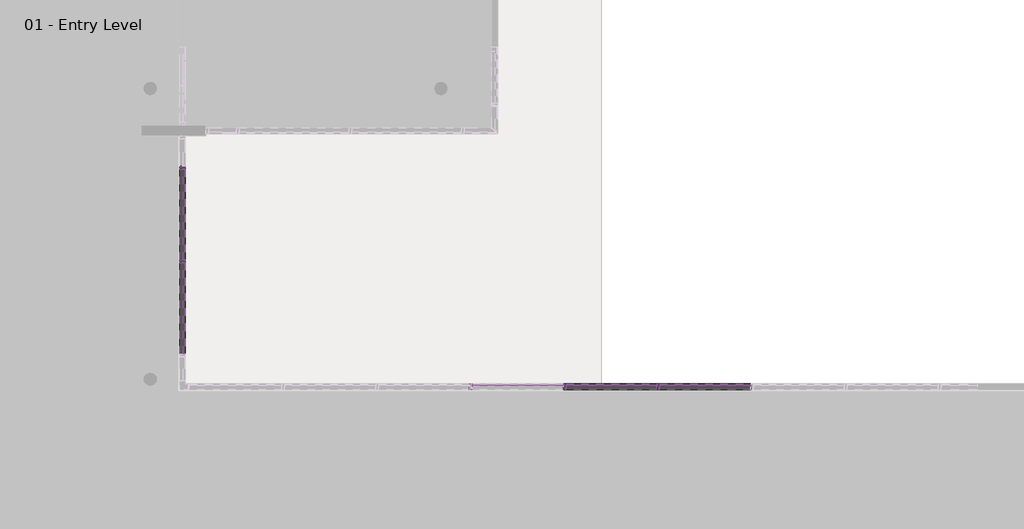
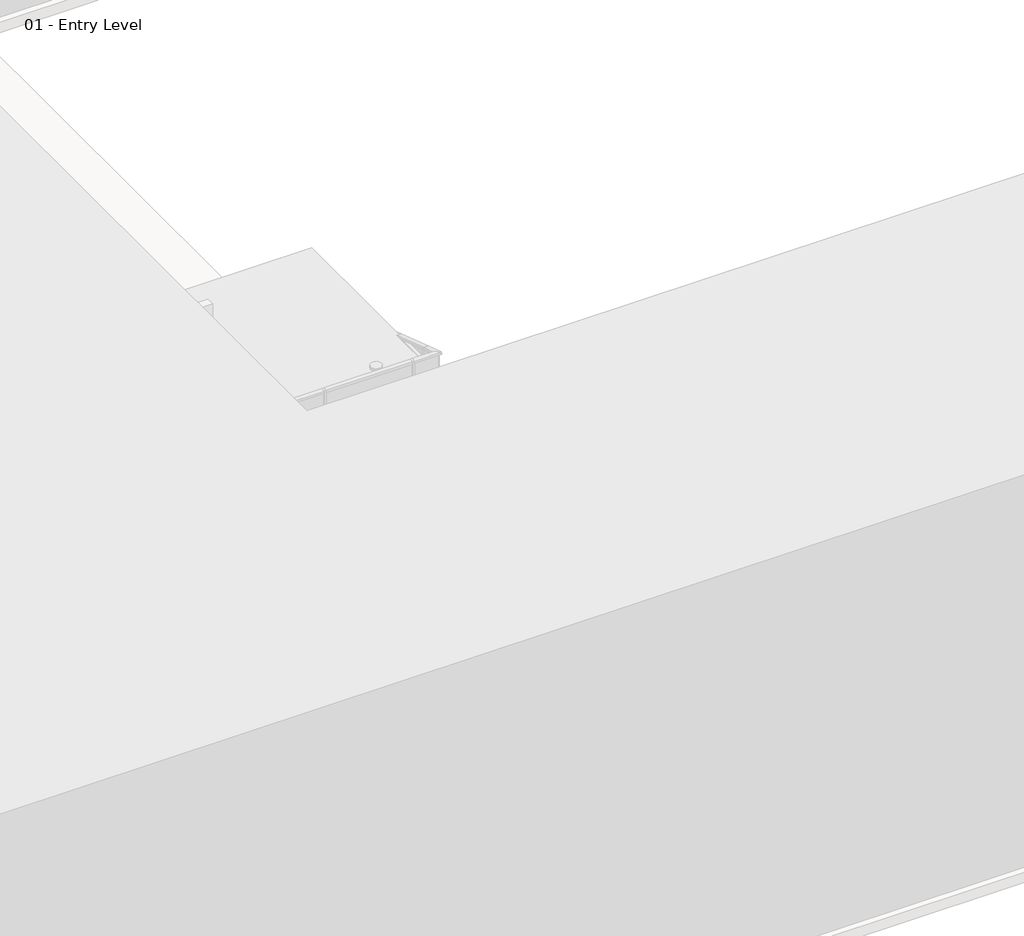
# One storey, part 10 of 34: 86 members, 45 plates.
"""IFC4 building model written with IfcOpenShell, lengths in millimetres."""

from ifc_helpers import new_model, si_unit, origin, place, context, project, spatial, transform, mapped, element, save
from components import member_2b49869a, member_391b434c, member_9e90ae50, member_e5d39754, system_panel_glazed_1b9d6098, system_panel_glazed_70da479d

model = new_model("IFC4")

# Units and contexts
model_context = context("Model", 3, world=origin())
ifc_project = project(units=[si_unit("LENGTHUNIT", "METRE", prefix="MILLI")], contexts=[model_context])

# Site, building, storey
site = spatial("IfcSite", under=ifc_project)
building = spatial("IfcBuilding", under=site)
storey = spatial("IfcBuildingStorey", under=building, Name="01 - Entry Level", Elevation=0.0)

# Members
placement = place(None, origin())
member_shape = member_2b49869a(model_context)
element("IfcMember", 1, ObjectType="Rectangular Mullion : 2.5\" x 5\" rectangular", at=placement, inside=storey, context=model_context, shape_type="MappedRepresentation", body=[
    mapped(member_shape, transform((27496.4207476, 11001.3, 9753.6), x_axis=(-1.0, 0.0, 0.0), y_axis=(0.0, 1.0, 0.0), z_axis=(0.0, 0.0, -1.0))),
])
element("IfcMember", 2, ObjectType="Rectangular Mullion : 2.5\" x 5\" rectangular", at=placement, inside=storey, context=model_context, shape_type="MappedRepresentation", body=[
    mapped(member_shape, transform((25464.4207476, 11001.3, 9753.6), x_axis=(-1.0, 0.0, 0.0), y_axis=(0.0, 1.0, 0.0), z_axis=(0.0, 0.0, -1.0))),
])
element("IfcMember", 3, ObjectType="Rectangular Mullion : 2.5\" x 5\" rectangular", at=placement, inside=storey, context=model_context, shape_type="MappedRepresentation", body=[
    mapped(member_shape, transform((23432.4207476, 11001.3, 9753.6), x_axis=(-1.0, 0.0, 0.0), y_axis=(0.0, 1.0, 0.0), z_axis=(0.0, 0.0, -1.0))),
])
element("IfcMember", 4, ObjectType="Rectangular Mullion : 2.5\" x 5\" rectangular", at=placement, inside=storey, context=model_context, shape_type="MappedRepresentation", body=[
    mapped(member_shape, transform((17184.0207476, 13719.1, 9753.6), x_axis=(0.0, 1.0, 0.0), y_axis=(1.0, 0.0, 0.0), z_axis=(0.0, 0.0, -1.0))),
])
element("IfcMember", 5, ObjectType="Rectangular Mullion : 2.5\" x 5\" rectangular", at=placement, inside=storey, context=model_context, shape_type="MappedRepresentation", body=[
    mapped(member_shape, transform((17184.0207476, 15751.1, 9753.6), x_axis=(0.0, 1.0, 0.0), y_axis=(1.0, 0.0, 0.0), z_axis=(0.0, 0.0, -1.0))),
])
member_2_shape = member_391b434c(model_context)
element("IfcMember", 6, ObjectType="Rectangular Mullion : 2.5\" x 5\" rectangular", at=placement, inside=storey, context=model_context, shape_type="MappedRepresentation", body=[
    mapped(member_2_shape, transform((29560.1707476, 11001.3, 10972.8), x_axis=(0.0, 0.0, 1.0), y_axis=(0.0, 1.0, 0.0), z_axis=(-1.0, 0.0, 0.0))),
])
element("IfcMember", 7, ObjectType="Rectangular Mullion : 2.5\" x 5\" rectangular", at=placement, inside=storey, context=model_context, shape_type="MappedRepresentation", body=[
    mapped(member_2_shape, transform((27528.1707476, 11001.3, 10972.8), x_axis=(0.0, 0.0, 1.0), y_axis=(0.0, 1.0, 0.0), z_axis=(-1.0, 0.0, 0.0))),
])
element("IfcMember", 8, ObjectType="Rectangular Mullion : 2.5\" x 5\" rectangular", at=placement, inside=storey, context=model_context, shape_type="MappedRepresentation", body=[
    mapped(member_2_shape, transform((25496.1707476, 11001.3, 10972.8), x_axis=(0.0, 0.0, 1.0), y_axis=(0.0, 1.0, 0.0), z_axis=(-1.0, 0.0, 0.0))),
])
element("IfcMember", 9, ObjectType="Rectangular Mullion : 2.5\" x 5\" rectangular", at=placement, inside=storey, context=model_context, shape_type="MappedRepresentation", body=[
    mapped(member_2_shape, transform((17184.0207476, 13687.35, 10972.8), x_axis=(0.0, 0.0, 1.0), y_axis=(1.0, 0.0, 0.0), z_axis=(0.0, 1.0, 0.0))),
])
element("IfcMember", 10, ObjectType="Rectangular Mullion : 2.5\" x 5\" rectangular", at=placement, inside=storey, context=model_context, shape_type="MappedRepresentation", body=[
    mapped(member_2_shape, transform((17184.0207476, 15719.35, 10972.8), x_axis=(0.0, 0.0, 1.0), y_axis=(1.0, 0.0, 0.0), z_axis=(0.0, 1.0, 0.0))),
])
element("IfcMember", 11, ObjectType="Rectangular Mullion : 2.5\" x 5\" rectangular", at=placement, inside=storey, context=model_context, shape_type="MappedRepresentation", body=[
    mapped(member_2_shape, transform((29496.6707476, 11001.3, 0.0), x_axis=(0.0, 0.0, -1.0), y_axis=(0.0, 1.0, 0.0), z_axis=(1.0, 0.0, 0.0))),
])
element("IfcMember", 12, ObjectType="Rectangular Mullion : 2.5\" x 5\" rectangular", at=placement, inside=storey, context=model_context, shape_type="MappedRepresentation", body=[
    mapped(member_2_shape, transform((27464.6707476, 11001.3, 0.0), x_axis=(0.0, 0.0, -1.0), y_axis=(0.0, 1.0, 0.0), z_axis=(1.0, 0.0, 0.0))),
])
element("IfcMember", 13, ObjectType="Rectangular Mullion : 2.5\" x 5\" rectangular", at=placement, inside=storey, context=model_context, shape_type="MappedRepresentation", body=[
    mapped(member_2_shape, transform((25432.6707476, 11001.3, 0.0), x_axis=(0.0, 0.0, -1.0), y_axis=(0.0, 1.0, 0.0), z_axis=(1.0, 0.0, 0.0))),
])
element("IfcMember", 14, ObjectType="Rectangular Mullion : 2.5\" x 5\" rectangular", at=placement, inside=storey, context=model_context, shape_type="MappedRepresentation", body=[
    mapped(member_2_shape, transform((17184.0207476, 13750.85, 0.0), x_axis=(0.0, 0.0, -1.0), y_axis=(1.0, 0.0, 0.0), z_axis=(0.0, -1.0, 0.0))),
])
member_3_shape = member_9e90ae50(model_context)
element("IfcMember", 15, ObjectType="Rectangular Mullion : 2.5\" x 5\" rectangular", at=placement, inside=storey, context=model_context, shape_type="MappedRepresentation", body=[
    mapped(member_3_shape, transform((27528.1707476, 11001.3, 1219.2), x_axis=(0.0, 0.0, 1.0), y_axis=(0.0, 1.0, 0.0), z_axis=(-1.0, 0.0, 0.0))),
])
element("IfcMember", 16, ObjectType="Rectangular Mullion : 2.5\" x 5\" rectangular", at=placement, inside=storey, context=model_context, shape_type="MappedRepresentation", body=[
    mapped(member_3_shape, transform((25496.1707476, 11001.3, 1219.2), x_axis=(0.0, 0.0, 1.0), y_axis=(0.0, 1.0, 0.0), z_axis=(-1.0, 0.0, 0.0))),
])
element("IfcMember", 17, ObjectType="Rectangular Mullion : 2.5\" x 5\" rectangular", at=placement, inside=storey, context=model_context, shape_type="MappedRepresentation", body=[
    mapped(member_3_shape, transform((27528.1707476, 11001.3, 2438.4), x_axis=(0.0, 0.0, 1.0), y_axis=(0.0, 1.0, 0.0), z_axis=(-1.0, 0.0, 0.0))),
])
element("IfcMember", 18, ObjectType="Rectangular Mullion : 2.5\" x 5\" rectangular", at=placement, inside=storey, context=model_context, shape_type="MappedRepresentation", body=[
    mapped(member_3_shape, transform((25496.1707476, 11001.3, 2438.4), x_axis=(0.0, 0.0, 1.0), y_axis=(0.0, 1.0, 0.0), z_axis=(-1.0, 0.0, 0.0))),
])
element("IfcMember", 19, ObjectType="Rectangular Mullion : 2.5\" x 5\" rectangular", at=placement, inside=storey, context=model_context, shape_type="MappedRepresentation", body=[
    mapped(member_3_shape, transform((27528.1707476, 11001.3, 3657.6), x_axis=(0.0, 0.0, 1.0), y_axis=(0.0, 1.0, 0.0), z_axis=(-1.0, 0.0, 0.0))),
])
element("IfcMember", 20, ObjectType="Rectangular Mullion : 2.5\" x 5\" rectangular", at=placement, inside=storey, context=model_context, shape_type="MappedRepresentation", body=[
    mapped(member_3_shape, transform((25496.1707476, 11001.3, 3657.6), x_axis=(0.0, 0.0, 1.0), y_axis=(0.0, 1.0, 0.0), z_axis=(-1.0, 0.0, 0.0))),
])
element("IfcMember", 21, ObjectType="Rectangular Mullion : 2.5\" x 5\" rectangular", at=placement, inside=storey, context=model_context, shape_type="MappedRepresentation", body=[
    mapped(member_3_shape, transform((27528.1707476, 11001.3, 4876.8), x_axis=(0.0, 0.0, 1.0), y_axis=(0.0, 1.0, 0.0), z_axis=(-1.0, 0.0, 0.0))),
])
element("IfcMember", 22, ObjectType="Rectangular Mullion : 2.5\" x 5\" rectangular", at=placement, inside=storey, context=model_context, shape_type="MappedRepresentation", body=[
    mapped(member_3_shape, transform((25496.1707476, 11001.3, 4876.8), x_axis=(0.0, 0.0, 1.0), y_axis=(0.0, 1.0, 0.0), z_axis=(-1.0, 0.0, 0.0))),
])
element("IfcMember", 23, ObjectType="Rectangular Mullion : 2.5\" x 5\" rectangular", at=placement, inside=storey, context=model_context, shape_type="MappedRepresentation", body=[
    mapped(member_3_shape, transform((27528.1707476, 11001.3, 6096.0), x_axis=(0.0, 0.0, 1.0), y_axis=(0.0, 1.0, 0.0), z_axis=(-1.0, 0.0, 0.0))),
])
element("IfcMember", 24, ObjectType="Rectangular Mullion : 2.5\" x 5\" rectangular", at=placement, inside=storey, context=model_context, shape_type="MappedRepresentation", body=[
    mapped(member_3_shape, transform((25496.1707476, 11001.3, 6096.0), x_axis=(0.0, 0.0, 1.0), y_axis=(0.0, 1.0, 0.0), z_axis=(-1.0, 0.0, 0.0))),
])
element("IfcMember", 25, ObjectType="Rectangular Mullion : 2.5\" x 5\" rectangular", at=placement, inside=storey, context=model_context, shape_type="MappedRepresentation", body=[
    mapped(member_3_shape, transform((27528.1707476, 11001.3, 7315.2), x_axis=(0.0, 0.0, 1.0), y_axis=(0.0, 1.0, 0.0), z_axis=(-1.0, 0.0, 0.0))),
])
element("IfcMember", 26, ObjectType="Rectangular Mullion : 2.5\" x 5\" rectangular", at=placement, inside=storey, context=model_context, shape_type="MappedRepresentation", body=[
    mapped(member_3_shape, transform((25496.1707476, 11001.3, 7315.2), x_axis=(0.0, 0.0, 1.0), y_axis=(0.0, 1.0, 0.0), z_axis=(-1.0, 0.0, 0.0))),
])
element("IfcMember", 27, ObjectType="Rectangular Mullion : 2.5\" x 5\" rectangular", at=placement, inside=storey, context=model_context, shape_type="MappedRepresentation", body=[
    mapped(member_3_shape, transform((27528.1707476, 11001.3, 8534.4), x_axis=(0.0, 0.0, 1.0), y_axis=(0.0, 1.0, 0.0), z_axis=(-1.0, 0.0, 0.0))),
])
element("IfcMember", 28, ObjectType="Rectangular Mullion : 2.5\" x 5\" rectangular", at=placement, inside=storey, context=model_context, shape_type="MappedRepresentation", body=[
    mapped(member_3_shape, transform((25496.1707476, 11001.3, 8534.4), x_axis=(0.0, 0.0, 1.0), y_axis=(0.0, 1.0, 0.0), z_axis=(-1.0, 0.0, 0.0))),
])
element("IfcMember", 29, ObjectType="Rectangular Mullion : 2.5\" x 5\" rectangular", at=placement, inside=storey, context=model_context, shape_type="MappedRepresentation", body=[
    mapped(member_3_shape, transform((27528.1707476, 11001.3, 9753.6), x_axis=(0.0, 0.0, 1.0), y_axis=(0.0, 1.0, 0.0), z_axis=(-1.0, 0.0, 0.0))),
])
element("IfcMember", 30, ObjectType="Rectangular Mullion : 2.5\" x 5\" rectangular", at=placement, inside=storey, context=model_context, shape_type="MappedRepresentation", body=[
    mapped(member_3_shape, transform((25496.1707476, 11001.3, 9753.6), x_axis=(0.0, 0.0, 1.0), y_axis=(0.0, 1.0, 0.0), z_axis=(-1.0, 0.0, 0.0))),
])
element("IfcMember", 31, ObjectType="Rectangular Mullion : 2.5\" x 5\" rectangular", at=placement, inside=storey, context=model_context, shape_type="MappedRepresentation", body=[
    mapped(member_3_shape, transform((17184.0207476, 13687.35, 1219.2), x_axis=(0.0, 0.0, 1.0), y_axis=(1.0, 0.0, 0.0), z_axis=(0.0, 1.0, 0.0))),
])
element("IfcMember", 32, ObjectType="Rectangular Mullion : 2.5\" x 5\" rectangular", at=placement, inside=storey, context=model_context, shape_type="MappedRepresentation", body=[
    mapped(member_3_shape, transform((17184.0207476, 15719.35, 1219.2), x_axis=(0.0, 0.0, 1.0), y_axis=(1.0, 0.0, 0.0), z_axis=(0.0, 1.0, 0.0))),
])
element("IfcMember", 33, ObjectType="Rectangular Mullion : 2.5\" x 5\" rectangular", at=placement, inside=storey, context=model_context, shape_type="MappedRepresentation", body=[
    mapped(member_3_shape, transform((17184.0207476, 13687.35, 2438.4), x_axis=(0.0, 0.0, 1.0), y_axis=(1.0, 0.0, 0.0), z_axis=(0.0, 1.0, 0.0))),
])
element("IfcMember", 34, ObjectType="Rectangular Mullion : 2.5\" x 5\" rectangular", at=placement, inside=storey, context=model_context, shape_type="MappedRepresentation", body=[
    mapped(member_3_shape, transform((17184.0207476, 15719.35, 2438.4), x_axis=(0.0, 0.0, 1.0), y_axis=(1.0, 0.0, 0.0), z_axis=(0.0, 1.0, 0.0))),
])
element("IfcMember", 35, ObjectType="Rectangular Mullion : 2.5\" x 5\" rectangular", at=placement, inside=storey, context=model_context, shape_type="MappedRepresentation", body=[
    mapped(member_3_shape, transform((17184.0207476, 13687.35, 3657.6), x_axis=(0.0, 0.0, 1.0), y_axis=(1.0, 0.0, 0.0), z_axis=(0.0, 1.0, 0.0))),
])
element("IfcMember", 36, ObjectType="Rectangular Mullion : 2.5\" x 5\" rectangular", at=placement, inside=storey, context=model_context, shape_type="MappedRepresentation", body=[
    mapped(member_3_shape, transform((17184.0207476, 15719.35, 3657.6), x_axis=(0.0, 0.0, 1.0), y_axis=(1.0, 0.0, 0.0), z_axis=(0.0, 1.0, 0.0))),
])
element("IfcMember", 37, ObjectType="Rectangular Mullion : 2.5\" x 5\" rectangular", at=placement, inside=storey, context=model_context, shape_type="MappedRepresentation", body=[
    mapped(member_3_shape, transform((17184.0207476, 13687.35, 4876.8), x_axis=(0.0, 0.0, 1.0), y_axis=(1.0, 0.0, 0.0), z_axis=(0.0, 1.0, 0.0))),
])
element("IfcMember", 38, ObjectType="Rectangular Mullion : 2.5\" x 5\" rectangular", at=placement, inside=storey, context=model_context, shape_type="MappedRepresentation", body=[
    mapped(member_3_shape, transform((17184.0207476, 15719.35, 4876.8), x_axis=(0.0, 0.0, 1.0), y_axis=(1.0, 0.0, 0.0), z_axis=(0.0, 1.0, 0.0))),
])
element("IfcMember", 39, ObjectType="Rectangular Mullion : 2.5\" x 5\" rectangular", at=placement, inside=storey, context=model_context, shape_type="MappedRepresentation", body=[
    mapped(member_3_shape, transform((17184.0207476, 13687.35, 6096.0), x_axis=(0.0, 0.0, 1.0), y_axis=(1.0, 0.0, 0.0), z_axis=(0.0, 1.0, 0.0))),
])
element("IfcMember", 40, ObjectType="Rectangular Mullion : 2.5\" x 5\" rectangular", at=placement, inside=storey, context=model_context, shape_type="MappedRepresentation", body=[
    mapped(member_3_shape, transform((17184.0207476, 15719.35, 6096.0), x_axis=(0.0, 0.0, 1.0), y_axis=(1.0, 0.0, 0.0), z_axis=(0.0, 1.0, 0.0))),
])
element("IfcMember", 41, ObjectType="Rectangular Mullion : 2.5\" x 5\" rectangular", at=placement, inside=storey, context=model_context, shape_type="MappedRepresentation", body=[
    mapped(member_3_shape, transform((17184.0207476, 13687.35, 7315.2), x_axis=(0.0, 0.0, 1.0), y_axis=(1.0, 0.0, 0.0), z_axis=(0.0, 1.0, 0.0))),
])
element("IfcMember", 42, ObjectType="Rectangular Mullion : 2.5\" x 5\" rectangular", at=placement, inside=storey, context=model_context, shape_type="MappedRepresentation", body=[
    mapped(member_3_shape, transform((17184.0207476, 15719.35, 7315.2), x_axis=(0.0, 0.0, 1.0), y_axis=(1.0, 0.0, 0.0), z_axis=(0.0, 1.0, 0.0))),
])
element("IfcMember", 43, ObjectType="Rectangular Mullion : 2.5\" x 5\" rectangular", at=placement, inside=storey, context=model_context, shape_type="MappedRepresentation", body=[
    mapped(member_3_shape, transform((17184.0207476, 13687.35, 8534.4), x_axis=(0.0, 0.0, 1.0), y_axis=(1.0, 0.0, 0.0), z_axis=(0.0, 1.0, 0.0))),
])
element("IfcMember", 44, ObjectType="Rectangular Mullion : 2.5\" x 5\" rectangular", at=placement, inside=storey, context=model_context, shape_type="MappedRepresentation", body=[
    mapped(member_3_shape, transform((17184.0207476, 15719.35, 8534.4), x_axis=(0.0, 0.0, 1.0), y_axis=(1.0, 0.0, 0.0), z_axis=(0.0, 1.0, 0.0))),
])
element("IfcMember", 45, ObjectType="Rectangular Mullion : 2.5\" x 5\" rectangular", at=placement, inside=storey, context=model_context, shape_type="MappedRepresentation", body=[
    mapped(member_3_shape, transform((17184.0207476, 13687.35, 9753.6), x_axis=(0.0, 0.0, 1.0), y_axis=(1.0, 0.0, 0.0), z_axis=(0.0, 1.0, 0.0))),
])
element("IfcMember", 46, ObjectType="Rectangular Mullion : 2.5\" x 5\" rectangular", at=placement, inside=storey, context=model_context, shape_type="MappedRepresentation", body=[
    mapped(member_3_shape, transform((17184.0207476, 15719.35, 9753.6), x_axis=(0.0, 0.0, 1.0), y_axis=(1.0, 0.0, 0.0), z_axis=(0.0, 1.0, 0.0))),
])
element("IfcMember", 47, ObjectType="Rectangular Mullion : 2.5\" x 5\" rectangular", at=placement, inside=storey, context=model_context, shape_type="MappedRepresentation", body=[
    mapped(member_shape, transform((27496.4207476, 11001.3, 0.0), x_axis=(-1.0, 0.0, 0.0), y_axis=(0.0, 1.0, 0.0), z_axis=(0.0, 0.0, -1.0))),
])
element("IfcMember", 48, ObjectType="Rectangular Mullion : 2.5\" x 5\" rectangular", at=placement, inside=storey, context=model_context, shape_type="MappedRepresentation", body=[
    mapped(member_shape, transform((25464.4207476, 11001.3, 0.0), x_axis=(-1.0, 0.0, 0.0), y_axis=(0.0, 1.0, 0.0), z_axis=(0.0, 0.0, -1.0))),
])
element("IfcMember", 49, ObjectType="Rectangular Mullion : 2.5\" x 5\" rectangular", at=placement, inside=storey, context=model_context, shape_type="MappedRepresentation", body=[
    mapped(member_shape, transform((17184.0207476, 13719.1, 0.0), x_axis=(0.0, 1.0, 0.0), y_axis=(1.0, 0.0, 0.0), z_axis=(0.0, 0.0, -1.0))),
])
element("IfcMember", 50, ObjectType="Rectangular Mullion : 2.5\" x 5\" rectangular", at=placement, inside=storey, context=model_context, shape_type="MappedRepresentation", body=[
    mapped(member_shape, transform((17184.0207476, 15751.1, 0.0), x_axis=(0.0, 1.0, 0.0), y_axis=(1.0, 0.0, 0.0), z_axis=(0.0, 0.0, -1.0))),
])
element("IfcMember", 51, ObjectType="Rectangular Mullion : 2.5\" x 5\" rectangular", at=placement, inside=storey, context=model_context, shape_type="MappedRepresentation", body=[
    mapped(member_shape, transform((27496.4207476, 11001.3, 1219.2), x_axis=(-1.0, 0.0, 0.0), y_axis=(0.0, 1.0, 0.0), z_axis=(0.0, 0.0, -1.0))),
])
element("IfcMember", 52, ObjectType="Rectangular Mullion : 2.5\" x 5\" rectangular", at=placement, inside=storey, context=model_context, shape_type="MappedRepresentation", body=[
    mapped(member_shape, transform((25464.4207476, 11001.3, 1219.2), x_axis=(-1.0, 0.0, 0.0), y_axis=(0.0, 1.0, 0.0), z_axis=(0.0, 0.0, -1.0))),
])
element("IfcMember", 53, ObjectType="Rectangular Mullion : 2.5\" x 5\" rectangular", at=placement, inside=storey, context=model_context, shape_type="MappedRepresentation", body=[
    mapped(member_shape, transform((23432.4207476, 11001.3, 1219.2), x_axis=(-1.0, 0.0, 0.0), y_axis=(0.0, 1.0, 0.0), z_axis=(0.0, 0.0, -1.0))),
])
element("IfcMember", 54, ObjectType="Rectangular Mullion : 2.5\" x 5\" rectangular", at=placement, inside=storey, context=model_context, shape_type="MappedRepresentation", body=[
    mapped(member_shape, transform((27496.4207476, 11001.3, 2438.4), x_axis=(-1.0, 0.0, 0.0), y_axis=(0.0, 1.0, 0.0), z_axis=(0.0, 0.0, -1.0))),
])
element("IfcMember", 55, ObjectType="Rectangular Mullion : 2.5\" x 5\" rectangular", at=placement, inside=storey, context=model_context, shape_type="MappedRepresentation", body=[
    mapped(member_shape, transform((25464.4207476, 11001.3, 2438.4), x_axis=(-1.0, 0.0, 0.0), y_axis=(0.0, 1.0, 0.0), z_axis=(0.0, 0.0, -1.0))),
])
element("IfcMember", 56, ObjectType="Rectangular Mullion : 2.5\" x 5\" rectangular", at=placement, inside=storey, context=model_context, shape_type="MappedRepresentation", body=[
    mapped(member_shape, transform((23432.4207476, 11001.3, 2438.4), x_axis=(-1.0, 0.0, 0.0), y_axis=(0.0, 1.0, 0.0), z_axis=(0.0, 0.0, -1.0))),
])
element("IfcMember", 57, ObjectType="Rectangular Mullion : 2.5\" x 5\" rectangular", at=placement, inside=storey, context=model_context, shape_type="MappedRepresentation", body=[
    mapped(member_shape, transform((27496.4207476, 11001.3, 3657.6), x_axis=(-1.0, 0.0, 0.0), y_axis=(0.0, 1.0, 0.0), z_axis=(0.0, 0.0, -1.0))),
])
element("IfcMember", 58, ObjectType="Rectangular Mullion : 2.5\" x 5\" rectangular", at=placement, inside=storey, context=model_context, shape_type="MappedRepresentation", body=[
    mapped(member_shape, transform((25464.4207476, 11001.3, 3657.6), x_axis=(-1.0, 0.0, 0.0), y_axis=(0.0, 1.0, 0.0), z_axis=(0.0, 0.0, -1.0))),
])
element("IfcMember", 59, ObjectType="Rectangular Mullion : 2.5\" x 5\" rectangular", at=placement, inside=storey, context=model_context, shape_type="MappedRepresentation", body=[
    mapped(member_shape, transform((23432.4207476, 11001.3, 3657.6), x_axis=(-1.0, 0.0, 0.0), y_axis=(0.0, 1.0, 0.0), z_axis=(0.0, 0.0, -1.0))),
])
element("IfcMember", 60, ObjectType="Rectangular Mullion : 2.5\" x 5\" rectangular", at=placement, inside=storey, context=model_context, shape_type="MappedRepresentation", body=[
    mapped(member_shape, transform((27496.4207476, 11001.3, 4876.8), x_axis=(-1.0, 0.0, 0.0), y_axis=(0.0, 1.0, 0.0), z_axis=(0.0, 0.0, -1.0))),
])
element("IfcMember", 61, ObjectType="Rectangular Mullion : 2.5\" x 5\" rectangular", at=placement, inside=storey, context=model_context, shape_type="MappedRepresentation", body=[
    mapped(member_shape, transform((25464.4207476, 11001.3, 4876.8), x_axis=(-1.0, 0.0, 0.0), y_axis=(0.0, 1.0, 0.0), z_axis=(0.0, 0.0, -1.0))),
])
element("IfcMember", 62, ObjectType="Rectangular Mullion : 2.5\" x 5\" rectangular", at=placement, inside=storey, context=model_context, shape_type="MappedRepresentation", body=[
    mapped(member_shape, transform((23432.4207476, 11001.3, 4876.8), x_axis=(-1.0, 0.0, 0.0), y_axis=(0.0, 1.0, 0.0), z_axis=(0.0, 0.0, -1.0))),
])
element("IfcMember", 63, ObjectType="Rectangular Mullion : 2.5\" x 5\" rectangular", at=placement, inside=storey, context=model_context, shape_type="MappedRepresentation", body=[
    mapped(member_shape, transform((27496.4207476, 11001.3, 6096.0), x_axis=(-1.0, 0.0, 0.0), y_axis=(0.0, 1.0, 0.0), z_axis=(0.0, 0.0, -1.0))),
])
element("IfcMember", 64, ObjectType="Rectangular Mullion : 2.5\" x 5\" rectangular", at=placement, inside=storey, context=model_context, shape_type="MappedRepresentation", body=[
    mapped(member_shape, transform((25464.4207476, 11001.3, 6096.0), x_axis=(-1.0, 0.0, 0.0), y_axis=(0.0, 1.0, 0.0), z_axis=(0.0, 0.0, -1.0))),
])
element("IfcMember", 65, ObjectType="Rectangular Mullion : 2.5\" x 5\" rectangular", at=placement, inside=storey, context=model_context, shape_type="MappedRepresentation", body=[
    mapped(member_shape, transform((23432.4207476, 11001.3, 6096.0), x_axis=(-1.0, 0.0, 0.0), y_axis=(0.0, 1.0, 0.0), z_axis=(0.0, 0.0, -1.0))),
])
element("IfcMember", 66, ObjectType="Rectangular Mullion : 2.5\" x 5\" rectangular", at=placement, inside=storey, context=model_context, shape_type="MappedRepresentation", body=[
    mapped(member_shape, transform((27496.4207476, 11001.3, 7315.2), x_axis=(-1.0, 0.0, 0.0), y_axis=(0.0, 1.0, 0.0), z_axis=(0.0, 0.0, -1.0))),
])
element("IfcMember", 67, ObjectType="Rectangular Mullion : 2.5\" x 5\" rectangular", at=placement, inside=storey, context=model_context, shape_type="MappedRepresentation", body=[
    mapped(member_shape, transform((25464.4207476, 11001.3, 7315.2), x_axis=(-1.0, 0.0, 0.0), y_axis=(0.0, 1.0, 0.0), z_axis=(0.0, 0.0, -1.0))),
])
element("IfcMember", 68, ObjectType="Rectangular Mullion : 2.5\" x 5\" rectangular", at=placement, inside=storey, context=model_context, shape_type="MappedRepresentation", body=[
    mapped(member_shape, transform((23432.4207476, 11001.3, 7315.2), x_axis=(-1.0, 0.0, 0.0), y_axis=(0.0, 1.0, 0.0), z_axis=(0.0, 0.0, -1.0))),
])
element("IfcMember", 69, ObjectType="Rectangular Mullion : 2.5\" x 5\" rectangular", at=placement, inside=storey, context=model_context, shape_type="MappedRepresentation", body=[
    mapped(member_shape, transform((27496.4207476, 11001.3, 8534.4), x_axis=(-1.0, 0.0, 0.0), y_axis=(0.0, 1.0, 0.0), z_axis=(0.0, 0.0, -1.0))),
])
element("IfcMember", 70, ObjectType="Rectangular Mullion : 2.5\" x 5\" rectangular", at=placement, inside=storey, context=model_context, shape_type="MappedRepresentation", body=[
    mapped(member_shape, transform((25464.4207476, 11001.3, 8534.4), x_axis=(-1.0, 0.0, 0.0), y_axis=(0.0, 1.0, 0.0), z_axis=(0.0, 0.0, -1.0))),
])
element("IfcMember", 71, ObjectType="Rectangular Mullion : 2.5\" x 5\" rectangular", at=placement, inside=storey, context=model_context, shape_type="MappedRepresentation", body=[
    mapped(member_shape, transform((23432.4207476, 11001.3, 8534.4), x_axis=(-1.0, 0.0, 0.0), y_axis=(0.0, 1.0, 0.0), z_axis=(0.0, 0.0, -1.0))),
])
element("IfcMember", 72, ObjectType="Rectangular Mullion : 2.5\" x 5\" rectangular", at=placement, inside=storey, context=model_context, shape_type="MappedRepresentation", body=[
    mapped(member_shape, transform((17184.0207476, 13719.1, 1219.2), x_axis=(0.0, 1.0, 0.0), y_axis=(1.0, 0.0, 0.0), z_axis=(0.0, 0.0, -1.0))),
])
element("IfcMember", 73, ObjectType="Rectangular Mullion : 2.5\" x 5\" rectangular", at=placement, inside=storey, context=model_context, shape_type="MappedRepresentation", body=[
    mapped(member_shape, transform((17184.0207476, 13719.1, 2438.4), x_axis=(0.0, 1.0, 0.0), y_axis=(1.0, 0.0, 0.0), z_axis=(0.0, 0.0, -1.0))),
])
element("IfcMember", 74, ObjectType="Rectangular Mullion : 2.5\" x 5\" rectangular", at=placement, inside=storey, context=model_context, shape_type="MappedRepresentation", body=[
    mapped(member_shape, transform((17184.0207476, 13719.1, 3657.6), x_axis=(0.0, 1.0, 0.0), y_axis=(1.0, 0.0, 0.0), z_axis=(0.0, 0.0, -1.0))),
])
element("IfcMember", 75, ObjectType="Rectangular Mullion : 2.5\" x 5\" rectangular", at=placement, inside=storey, context=model_context, shape_type="MappedRepresentation", body=[
    mapped(member_shape, transform((17184.0207476, 13719.1, 4876.8), x_axis=(0.0, 1.0, 0.0), y_axis=(1.0, 0.0, 0.0), z_axis=(0.0, 0.0, -1.0))),
])
element("IfcMember", 76, ObjectType="Rectangular Mullion : 2.5\" x 5\" rectangular", at=placement, inside=storey, context=model_context, shape_type="MappedRepresentation", body=[
    mapped(member_shape, transform((17184.0207476, 13719.1, 6096.0), x_axis=(0.0, 1.0, 0.0), y_axis=(1.0, 0.0, 0.0), z_axis=(0.0, 0.0, -1.0))),
])
element("IfcMember", 77, ObjectType="Rectangular Mullion : 2.5\" x 5\" rectangular", at=placement, inside=storey, context=model_context, shape_type="MappedRepresentation", body=[
    mapped(member_shape, transform((17184.0207476, 13719.1, 7315.2), x_axis=(0.0, 1.0, 0.0), y_axis=(1.0, 0.0, 0.0), z_axis=(0.0, 0.0, -1.0))),
])
element("IfcMember", 78, ObjectType="Rectangular Mullion : 2.5\" x 5\" rectangular", at=placement, inside=storey, context=model_context, shape_type="MappedRepresentation", body=[
    mapped(member_shape, transform((17184.0207476, 13719.1, 8534.4), x_axis=(0.0, 1.0, 0.0), y_axis=(1.0, 0.0, 0.0), z_axis=(0.0, 0.0, -1.0))),
])
element("IfcMember", 79, ObjectType="Rectangular Mullion : 2.5\" x 5\" rectangular", at=placement, inside=storey, context=model_context, shape_type="MappedRepresentation", body=[
    mapped(member_shape, transform((17184.0207476, 15751.1, 1219.2), x_axis=(0.0, 1.0, 0.0), y_axis=(1.0, 0.0, 0.0), z_axis=(0.0, 0.0, -1.0))),
])
element("IfcMember", 80, ObjectType="Rectangular Mullion : 2.5\" x 5\" rectangular", at=placement, inside=storey, context=model_context, shape_type="MappedRepresentation", body=[
    mapped(member_shape, transform((17184.0207476, 15751.1, 2438.4), x_axis=(0.0, 1.0, 0.0), y_axis=(1.0, 0.0, 0.0), z_axis=(0.0, 0.0, -1.0))),
])
element("IfcMember", 81, ObjectType="Rectangular Mullion : 2.5\" x 5\" rectangular", at=placement, inside=storey, context=model_context, shape_type="MappedRepresentation", body=[
    mapped(member_shape, transform((17184.0207476, 15751.1, 3657.6), x_axis=(0.0, 1.0, 0.0), y_axis=(1.0, 0.0, 0.0), z_axis=(0.0, 0.0, -1.0))),
])
element("IfcMember", 82, ObjectType="Rectangular Mullion : 2.5\" x 5\" rectangular", at=placement, inside=storey, context=model_context, shape_type="MappedRepresentation", body=[
    mapped(member_shape, transform((17184.0207476, 15751.1, 4876.8), x_axis=(0.0, 1.0, 0.0), y_axis=(1.0, 0.0, 0.0), z_axis=(0.0, 0.0, -1.0))),
])
element("IfcMember", 83, ObjectType="Rectangular Mullion : 2.5\" x 5\" rectangular", at=placement, inside=storey, context=model_context, shape_type="MappedRepresentation", body=[
    mapped(member_shape, transform((17184.0207476, 15751.1, 6096.0), x_axis=(0.0, 1.0, 0.0), y_axis=(1.0, 0.0, 0.0), z_axis=(0.0, 0.0, -1.0))),
])
element("IfcMember", 84, ObjectType="Rectangular Mullion : 2.5\" x 5\" rectangular", at=placement, inside=storey, context=model_context, shape_type="MappedRepresentation", body=[
    mapped(member_shape, transform((17184.0207476, 15751.1, 7315.2), x_axis=(0.0, 1.0, 0.0), y_axis=(1.0, 0.0, 0.0), z_axis=(0.0, 0.0, -1.0))),
])
element("IfcMember", 85, ObjectType="Rectangular Mullion : 2.5\" x 5\" rectangular", at=placement, inside=storey, context=model_context, shape_type="MappedRepresentation", body=[
    mapped(member_shape, transform((17184.0207476, 15751.1, 8534.4), x_axis=(0.0, 1.0, 0.0), y_axis=(1.0, 0.0, 0.0), z_axis=(0.0, 0.0, -1.0))),
])
member_4_shape = member_e5d39754(model_context)
element("IfcMember", 86, ObjectType="Rectangular Mullion : 2.5\" x 5\" rectangular", at=placement, inside=storey, context=model_context, shape_type="MappedRepresentation", body=[
    mapped(member_4_shape, transform((17184.0207476, 15782.85, 0.0), x_axis=(0.0, 0.0, -1.0), y_axis=(1.0, 0.0, 0.0), z_axis=(0.0, -1.0, 0.0))),
])

# Plates
system_panel_glazed_shape = system_panel_glazed_1b9d6098(model_context)
element("IfcPlate", 87, ObjectType="System Panel : Glazed", at=placement, inside=storey, context=model_context, shape_type="MappedRepresentation", body=[
    mapped(system_panel_glazed_shape, transform((28512.4207476, 11001.3, 63.5), x_axis=(-1.0, 0.0, 0.0), y_axis=(0.0, -1.0, 0.0), z_axis=(0.0, 0.0, 1.0))),
])
element("IfcPlate", 88, ObjectType="System Panel : Glazed", at=placement, inside=storey, context=model_context, shape_type="MappedRepresentation", body=[
    mapped(system_panel_glazed_shape, transform((26480.4207476, 11001.3, 63.5), x_axis=(-1.0, 0.0, 0.0), y_axis=(0.0, -1.0, 0.0), z_axis=(0.0, 0.0, 1.0))),
])
element("IfcPlate", 89, ObjectType="System Panel : Glazed", at=placement, inside=storey, context=model_context, shape_type="MappedRepresentation", body=[
    mapped(system_panel_glazed_shape, transform((24448.4207476, 11001.3, 63.5), x_axis=(-1.0, 0.0, 0.0), y_axis=(0.0, -1.0, 0.0), z_axis=(0.0, 0.0, 1.0))),
])
element("IfcPlate", 90, ObjectType="System Panel : Glazed", at=placement, inside=storey, context=model_context, shape_type="MappedRepresentation", body=[
    mapped(system_panel_glazed_shape, transform((28512.4207476, 11001.3, 9785.35), x_axis=(-1.0, 0.0, 0.0), y_axis=(0.0, -1.0, 0.0), z_axis=(0.0, 0.0, 1.0))),
])
element("IfcPlate", 91, ObjectType="System Panel : Glazed", at=placement, inside=storey, context=model_context, shape_type="MappedRepresentation", body=[
    mapped(system_panel_glazed_shape, transform((26480.4207476, 11001.3, 9785.35), x_axis=(-1.0, 0.0, 0.0), y_axis=(0.0, -1.0, 0.0), z_axis=(0.0, 0.0, 1.0))),
])
element("IfcPlate", 92, ObjectType="System Panel : Glazed", at=placement, inside=storey, context=model_context, shape_type="MappedRepresentation", body=[
    mapped(system_panel_glazed_shape, transform((24448.4207476, 11001.3, 9785.35), x_axis=(-1.0, 0.0, 0.0), y_axis=(0.0, -1.0, 0.0), z_axis=(0.0, 0.0, 1.0))),
])
element("IfcPlate", 93, ObjectType="System Panel : Glazed", at=placement, inside=storey, context=model_context, shape_type="MappedRepresentation", body=[
    mapped(system_panel_glazed_shape, transform((17184.0207476, 12703.1, 63.5), x_axis=(0.0, 1.0, 0.0), y_axis=(-1.0, 0.0, 0.0), z_axis=(0.0, 0.0, 1.0))),
])
element("IfcPlate", 94, ObjectType="System Panel : Glazed", at=placement, inside=storey, context=model_context, shape_type="MappedRepresentation", body=[
    mapped(system_panel_glazed_shape, transform((17184.0207476, 14735.1, 63.5), x_axis=(0.0, 1.0, 0.0), y_axis=(-1.0, 0.0, 0.0), z_axis=(0.0, 0.0, 1.0))),
])
element("IfcPlate", 95, ObjectType="System Panel : Glazed", at=placement, inside=storey, context=model_context, shape_type="MappedRepresentation", body=[
    mapped(system_panel_glazed_shape, transform((17184.0207476, 12703.1, 9785.35), x_axis=(0.0, 1.0, 0.0), y_axis=(-1.0, 0.0, 0.0), z_axis=(0.0, 0.0, 1.0))),
])
element("IfcPlate", 96, ObjectType="System Panel : Glazed", at=placement, inside=storey, context=model_context, shape_type="MappedRepresentation", body=[
    mapped(system_panel_glazed_shape, transform((17184.0207476, 14735.1, 9785.35), x_axis=(0.0, 1.0, 0.0), y_axis=(-1.0, 0.0, 0.0), z_axis=(0.0, 0.0, 1.0))),
])
system_panel_glazed_2_shape = system_panel_glazed_70da479d(model_context)
element("IfcPlate", 97, ObjectType="System Panel : Glazed", at=placement, inside=storey, context=model_context, shape_type="MappedRepresentation", body=[
    mapped(system_panel_glazed_2_shape, transform((28512.4207476, 11001.3, 1250.95), x_axis=(-1.0, 0.0, 0.0), y_axis=(0.0, -1.0, 0.0), z_axis=(0.0, 0.0, 1.0))),
])
element("IfcPlate", 98, ObjectType="System Panel : Glazed", at=placement, inside=storey, context=model_context, shape_type="MappedRepresentation", body=[
    mapped(system_panel_glazed_2_shape, transform((26480.4207476, 11001.3, 1250.95), x_axis=(-1.0, 0.0, 0.0), y_axis=(0.0, -1.0, 0.0), z_axis=(0.0, 0.0, 1.0))),
])
element("IfcPlate", 99, ObjectType="System Panel : Glazed", at=placement, inside=storey, context=model_context, shape_type="MappedRepresentation", body=[
    mapped(system_panel_glazed_2_shape, transform((24448.4207476, 11001.3, 1250.95), x_axis=(-1.0, 0.0, 0.0), y_axis=(0.0, -1.0, 0.0), z_axis=(0.0, 0.0, 1.0))),
])
element("IfcPlate", 100, ObjectType="System Panel : Glazed", at=placement, inside=storey, context=model_context, shape_type="MappedRepresentation", body=[
    mapped(system_panel_glazed_2_shape, transform((28512.4207476, 11001.3, 2470.15), x_axis=(-1.0, 0.0, 0.0), y_axis=(0.0, -1.0, 0.0), z_axis=(0.0, 0.0, 1.0))),
])
element("IfcPlate", 101, ObjectType="System Panel : Glazed", at=placement, inside=storey, context=model_context, shape_type="MappedRepresentation", body=[
    mapped(system_panel_glazed_2_shape, transform((26480.4207476, 11001.3, 2470.15), x_axis=(-1.0, 0.0, 0.0), y_axis=(0.0, -1.0, 0.0), z_axis=(0.0, 0.0, 1.0))),
])
element("IfcPlate", 102, ObjectType="System Panel : Glazed", at=placement, inside=storey, context=model_context, shape_type="MappedRepresentation", body=[
    mapped(system_panel_glazed_2_shape, transform((24448.4207476, 11001.3, 2470.15), x_axis=(-1.0, 0.0, 0.0), y_axis=(0.0, -1.0, 0.0), z_axis=(0.0, 0.0, 1.0))),
])
element("IfcPlate", 103, ObjectType="System Panel : Glazed", at=placement, inside=storey, context=model_context, shape_type="MappedRepresentation", body=[
    mapped(system_panel_glazed_2_shape, transform((28512.4207476, 11001.3, 3689.35), x_axis=(-1.0, 0.0, 0.0), y_axis=(0.0, -1.0, 0.0), z_axis=(0.0, 0.0, 1.0))),
])
element("IfcPlate", 104, ObjectType="System Panel : Glazed", at=placement, inside=storey, context=model_context, shape_type="MappedRepresentation", body=[
    mapped(system_panel_glazed_2_shape, transform((26480.4207476, 11001.3, 3689.35), x_axis=(-1.0, 0.0, 0.0), y_axis=(0.0, -1.0, 0.0), z_axis=(0.0, 0.0, 1.0))),
])
element("IfcPlate", 105, ObjectType="System Panel : Glazed", at=placement, inside=storey, context=model_context, shape_type="MappedRepresentation", body=[
    mapped(system_panel_glazed_2_shape, transform((24448.4207476, 11001.3, 3689.35), x_axis=(-1.0, 0.0, 0.0), y_axis=(0.0, -1.0, 0.0), z_axis=(0.0, 0.0, 1.0))),
])
element("IfcPlate", 106, ObjectType="System Panel : Glazed", at=placement, inside=storey, context=model_context, shape_type="MappedRepresentation", body=[
    mapped(system_panel_glazed_2_shape, transform((28512.4207476, 11001.3, 4908.55), x_axis=(-1.0, 0.0, 0.0), y_axis=(0.0, -1.0, 0.0), z_axis=(0.0, 0.0, 1.0))),
])
element("IfcPlate", 107, ObjectType="System Panel : Glazed", at=placement, inside=storey, context=model_context, shape_type="MappedRepresentation", body=[
    mapped(system_panel_glazed_2_shape, transform((26480.4207476, 11001.3, 4908.55), x_axis=(-1.0, 0.0, 0.0), y_axis=(0.0, -1.0, 0.0), z_axis=(0.0, 0.0, 1.0))),
])
element("IfcPlate", 108, ObjectType="System Panel : Glazed", at=placement, inside=storey, context=model_context, shape_type="MappedRepresentation", body=[
    mapped(system_panel_glazed_2_shape, transform((24448.4207476, 11001.3, 4908.55), x_axis=(-1.0, 0.0, 0.0), y_axis=(0.0, -1.0, 0.0), z_axis=(0.0, 0.0, 1.0))),
])
element("IfcPlate", 109, ObjectType="System Panel : Glazed", at=placement, inside=storey, context=model_context, shape_type="MappedRepresentation", body=[
    mapped(system_panel_glazed_2_shape, transform((28512.4207476, 11001.3, 6127.75), x_axis=(-1.0, 0.0, 0.0), y_axis=(0.0, -1.0, 0.0), z_axis=(0.0, 0.0, 1.0))),
])
element("IfcPlate", 110, ObjectType="System Panel : Glazed", at=placement, inside=storey, context=model_context, shape_type="MappedRepresentation", body=[
    mapped(system_panel_glazed_2_shape, transform((26480.4207476, 11001.3, 6127.75), x_axis=(-1.0, 0.0, 0.0), y_axis=(0.0, -1.0, 0.0), z_axis=(0.0, 0.0, 1.0))),
])
element("IfcPlate", 111, ObjectType="System Panel : Glazed", at=placement, inside=storey, context=model_context, shape_type="MappedRepresentation", body=[
    mapped(system_panel_glazed_2_shape, transform((24448.4207476, 11001.3, 6127.75), x_axis=(-1.0, 0.0, 0.0), y_axis=(0.0, -1.0, 0.0), z_axis=(0.0, 0.0, 1.0))),
])
element("IfcPlate", 112, ObjectType="System Panel : Glazed", at=placement, inside=storey, context=model_context, shape_type="MappedRepresentation", body=[
    mapped(system_panel_glazed_2_shape, transform((28512.4207476, 11001.3, 7346.95), x_axis=(-1.0, 0.0, 0.0), y_axis=(0.0, -1.0, 0.0), z_axis=(0.0, 0.0, 1.0))),
])
element("IfcPlate", 113, ObjectType="System Panel : Glazed", at=placement, inside=storey, context=model_context, shape_type="MappedRepresentation", body=[
    mapped(system_panel_glazed_2_shape, transform((26480.4207476, 11001.3, 7346.95), x_axis=(-1.0, 0.0, 0.0), y_axis=(0.0, -1.0, 0.0), z_axis=(0.0, 0.0, 1.0))),
])
element("IfcPlate", 114, ObjectType="System Panel : Glazed", at=placement, inside=storey, context=model_context, shape_type="MappedRepresentation", body=[
    mapped(system_panel_glazed_2_shape, transform((24448.4207476, 11001.3, 7346.95), x_axis=(-1.0, 0.0, 0.0), y_axis=(0.0, -1.0, 0.0), z_axis=(0.0, 0.0, 1.0))),
])
element("IfcPlate", 115, ObjectType="System Panel : Glazed", at=placement, inside=storey, context=model_context, shape_type="MappedRepresentation", body=[
    mapped(system_panel_glazed_2_shape, transform((28512.4207476, 11001.3, 8566.15), x_axis=(-1.0, 0.0, 0.0), y_axis=(0.0, -1.0, 0.0), z_axis=(0.0, 0.0, 1.0))),
])
element("IfcPlate", 116, ObjectType="System Panel : Glazed", at=placement, inside=storey, context=model_context, shape_type="MappedRepresentation", body=[
    mapped(system_panel_glazed_2_shape, transform((26480.4207476, 11001.3, 8566.15), x_axis=(-1.0, 0.0, 0.0), y_axis=(0.0, -1.0, 0.0), z_axis=(0.0, 0.0, 1.0))),
])
element("IfcPlate", 117, ObjectType="System Panel : Glazed", at=placement, inside=storey, context=model_context, shape_type="MappedRepresentation", body=[
    mapped(system_panel_glazed_2_shape, transform((24448.4207476, 11001.3, 8566.15), x_axis=(-1.0, 0.0, 0.0), y_axis=(0.0, -1.0, 0.0), z_axis=(0.0, 0.0, 1.0))),
])
element("IfcPlate", 118, ObjectType="System Panel : Glazed", at=placement, inside=storey, context=model_context, shape_type="MappedRepresentation", body=[
    mapped(system_panel_glazed_2_shape, transform((17184.0207476, 12703.1, 1250.95), x_axis=(0.0, 1.0, 0.0), y_axis=(-1.0, 0.0, 0.0), z_axis=(0.0, 0.0, 1.0))),
])
element("IfcPlate", 119, ObjectType="System Panel : Glazed", at=placement, inside=storey, context=model_context, shape_type="MappedRepresentation", body=[
    mapped(system_panel_glazed_2_shape, transform((17184.0207476, 14735.1, 1250.95), x_axis=(0.0, 1.0, 0.0), y_axis=(-1.0, 0.0, 0.0), z_axis=(0.0, 0.0, 1.0))),
])
element("IfcPlate", 120, ObjectType="System Panel : Glazed", at=placement, inside=storey, context=model_context, shape_type="MappedRepresentation", body=[
    mapped(system_panel_glazed_2_shape, transform((17184.0207476, 12703.1, 2470.15), x_axis=(0.0, 1.0, 0.0), y_axis=(-1.0, 0.0, 0.0), z_axis=(0.0, 0.0, 1.0))),
])
element("IfcPlate", 121, ObjectType="System Panel : Glazed", at=placement, inside=storey, context=model_context, shape_type="MappedRepresentation", body=[
    mapped(system_panel_glazed_2_shape, transform((17184.0207476, 14735.1, 2470.15), x_axis=(0.0, 1.0, 0.0), y_axis=(-1.0, 0.0, 0.0), z_axis=(0.0, 0.0, 1.0))),
])
element("IfcPlate", 122, ObjectType="System Panel : Glazed", at=placement, inside=storey, context=model_context, shape_type="MappedRepresentation", body=[
    mapped(system_panel_glazed_2_shape, transform((17184.0207476, 12703.1, 3689.35), x_axis=(0.0, 1.0, 0.0), y_axis=(-1.0, 0.0, 0.0), z_axis=(0.0, 0.0, 1.0))),
])
element("IfcPlate", 123, ObjectType="System Panel : Glazed", at=placement, inside=storey, context=model_context, shape_type="MappedRepresentation", body=[
    mapped(system_panel_glazed_2_shape, transform((17184.0207476, 14735.1, 3689.35), x_axis=(0.0, 1.0, 0.0), y_axis=(-1.0, 0.0, 0.0), z_axis=(0.0, 0.0, 1.0))),
])
element("IfcPlate", 124, ObjectType="System Panel : Glazed", at=placement, inside=storey, context=model_context, shape_type="MappedRepresentation", body=[
    mapped(system_panel_glazed_2_shape, transform((17184.0207476, 12703.1, 4908.55), x_axis=(0.0, 1.0, 0.0), y_axis=(-1.0, 0.0, 0.0), z_axis=(0.0, 0.0, 1.0))),
])
element("IfcPlate", 125, ObjectType="System Panel : Glazed", at=placement, inside=storey, context=model_context, shape_type="MappedRepresentation", body=[
    mapped(system_panel_glazed_2_shape, transform((17184.0207476, 14735.1, 4908.55), x_axis=(0.0, 1.0, 0.0), y_axis=(-1.0, 0.0, 0.0), z_axis=(0.0, 0.0, 1.0))),
])
element("IfcPlate", 126, ObjectType="System Panel : Glazed", at=placement, inside=storey, context=model_context, shape_type="MappedRepresentation", body=[
    mapped(system_panel_glazed_2_shape, transform((17184.0207476, 12703.1, 6127.75), x_axis=(0.0, 1.0, 0.0), y_axis=(-1.0, 0.0, 0.0), z_axis=(0.0, 0.0, 1.0))),
])
element("IfcPlate", 127, ObjectType="System Panel : Glazed", at=placement, inside=storey, context=model_context, shape_type="MappedRepresentation", body=[
    mapped(system_panel_glazed_2_shape, transform((17184.0207476, 14735.1, 6127.75), x_axis=(0.0, 1.0, 0.0), y_axis=(-1.0, 0.0, 0.0), z_axis=(0.0, 0.0, 1.0))),
])
element("IfcPlate", 128, ObjectType="System Panel : Glazed", at=placement, inside=storey, context=model_context, shape_type="MappedRepresentation", body=[
    mapped(system_panel_glazed_2_shape, transform((17184.0207476, 12703.1, 7346.95), x_axis=(0.0, 1.0, 0.0), y_axis=(-1.0, 0.0, 0.0), z_axis=(0.0, 0.0, 1.0))),
])
element("IfcPlate", 129, ObjectType="System Panel : Glazed", at=placement, inside=storey, context=model_context, shape_type="MappedRepresentation", body=[
    mapped(system_panel_glazed_2_shape, transform((17184.0207476, 14735.1, 7346.95), x_axis=(0.0, 1.0, 0.0), y_axis=(-1.0, 0.0, 0.0), z_axis=(0.0, 0.0, 1.0))),
])
element("IfcPlate", 130, ObjectType="System Panel : Glazed", at=placement, inside=storey, context=model_context, shape_type="MappedRepresentation", body=[
    mapped(system_panel_glazed_2_shape, transform((17184.0207476, 12703.1, 8566.15), x_axis=(0.0, 1.0, 0.0), y_axis=(-1.0, 0.0, 0.0), z_axis=(0.0, 0.0, 1.0))),
])
element("IfcPlate", 131, ObjectType="System Panel : Glazed", at=placement, inside=storey, context=model_context, shape_type="MappedRepresentation", body=[
    mapped(system_panel_glazed_2_shape, transform((17184.0207476, 14735.1, 8566.15), x_axis=(0.0, 1.0, 0.0), y_axis=(-1.0, 0.0, 0.0), z_axis=(0.0, 0.0, 1.0))),
])

save(model, "model.ifc")
